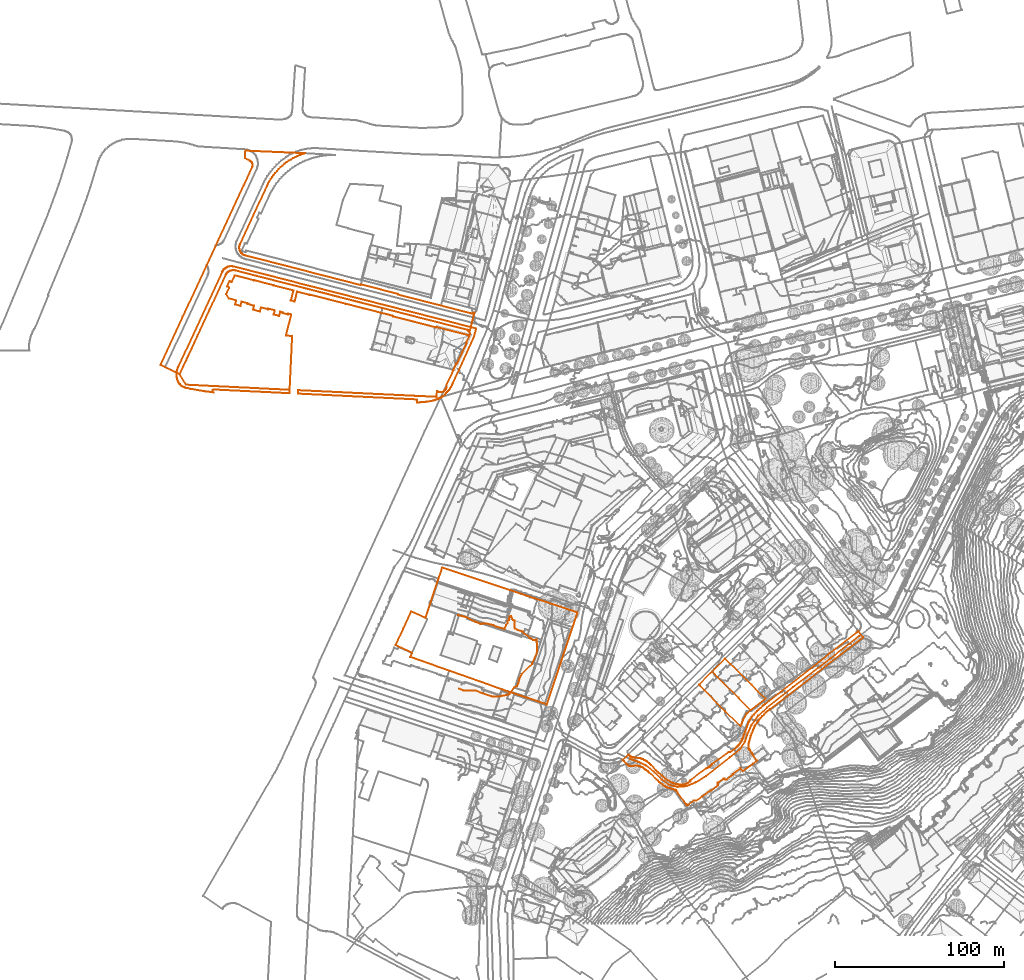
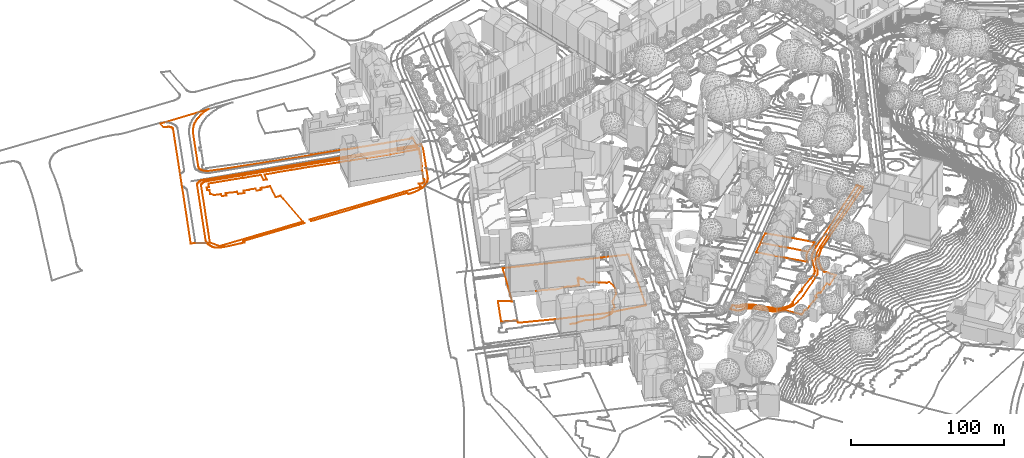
# Not in any storey, part 105 of 477: 5 geographic elements, 4 civil elements.
"""IFC4 model written with IfcOpenShell, lengths in metres."""

from ifc_helpers import new_model, entity, si_unit, frame, origin_with_axes, place, context, subcontext, project, spatial, element, save


model = new_model("IFC4")

# Units and contexts
model_context = context("Model", 3, precision=1e-05, world=origin_with_axes())
body_context = subcontext(model_context, "Body", "Model", "MODEL_VIEW")
ifc_project = project(units=[si_unit("AREAUNIT", "SQUARE_METRE"), si_unit("LENGTHUNIT", "METRE")], contexts=[model_context])

# Sites
site_1_placement = place(None, origin_with_axes())
site_1 = spatial("IfcSite", under=ifc_project, at=site_1_placement, Name="Topoexport Site")
site_2_placement = place(site_1_placement, origin_with_axes())
site_2 = spatial("IfcSite", under=site_1, at=site_2_placement, Name="TPX_ROADS")

# Civil element
civil_element_1_placement = place(site_2_placement, frame((100.2387320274, 96.0867402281, 531.113), z_axis=(0.0, 0.0, 1.0), x_axis=(1.0, 0.0, 0.0)))
element("IfcCivilElement", 1, at=civil_element_1_placement, inside=site_2, Name="Road 79", ObjectType="ROAD", context=body_context, shape_type="GeometricCurveSet", body=[
    entity("IfcGeometricCurveSet", [entity("IfcIndexedPolyCurve", entity("IfcCartesianPointList3D", [[0.0, 0.0, 0.0], [5.873999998, -1.9079999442, -0.327], [10.1329999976, -3.9629998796, -0.416], [15.125, -8.0759997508, -0.762], [19.2369999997, -12.1869996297, -0.742], [23.3489999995, -15.2709995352, -0.932], [28.7819999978, -16.5919994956, -1.02], [34.2149999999, -16.151999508, -1.14], [39.6479999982, -13.8019995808, -0.895], [45.6689999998, -10.1309996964, -0.771], [59.7670000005, 1.0289999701, -0.377], [65.9339999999, 6.0219998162, -0.226], [68.4299999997, 9.9869996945, 0.024], [70.1919999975, 14.9789995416, 0.289], [72.3939999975, 19.9719993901, 0.511], [76.3590000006, 25.4049992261, 0.835], [81.7929999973, 30.3979990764, 1.275], [97.0639999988, 42.4389987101, 1.964], [118.798, 59.1789981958, 3.142], [135.9779999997, 72.5419977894, 4.028]]))]),
])

# Site
site_3_placement = place(site_1_placement, origin_with_axes())
site_3 = spatial("IfcSite", under=site_1, at=site_3_placement, Name="TPX_ROADS_OUTLINES")

# Civil elements
civil_element_2_placement = place(site_3_placement, frame((-167.0582679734, 323.4217160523, 537.8425140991), z_axis=(0.0, 0.0, 1.0), x_axis=(1.0, 0.0, 0.0)))
element("IfcCivilElement", 2, at=civil_element_2_placement, inside=site_3, Name="Roads Outline 1", ObjectType="ROAD", context=body_context, shape_type="GeometricCurveSet", body=[
    entity("IfcGeometricCurveSet", [entity("IfcIndexedPolyCurve", entity("IfcCartesianPointList3D", [[0.0520000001, 0.794, 0.0778905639], [0.1720000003, 1.628, 0.1414368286], [0.3599999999, 2.449, 0.1229888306], [0.6140000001, 3.253, 0.1422283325], [0.932, 4.0330000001, 0.1900737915], [27.0049999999, 60.2550000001, 0.5400443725], [27.142, 60.5490000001, 0.5126433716], [27.298, 60.8330000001, 0.4861743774], [27.4399999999, 61.0580000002, 0.4652042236], [27.5929999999, 61.277, 0.4455913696], [27.9020000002, 61.659, 0.4208770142], [28.2420000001, 62.0140000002, 0.3979094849], [28.611, 62.3390000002, 0.3934667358], [29.0180000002, 62.6400000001, 0.429456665], [29.4509999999, 62.9040000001, 0.461022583], [29.997, 63.2100000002, 0.4976103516], [30.574, 63.4500000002, 0.5236322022], [31.176, 63.6220000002, 0.5419093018], [31.7930000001, 63.7220000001, 0.5525355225], [32.3420000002, 63.75, 0.5555108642], [32.892, 63.7220000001, 0.5525355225], [33.4360000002, 63.638, 0.5436094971], [33.9679999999, 63.4990000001, 0.5288390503], [173.8810000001, 27.709, 0.9821370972], [177.0249999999, 26.925, 1.0254997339], [175.7760000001, 22.1140000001, 0.8991806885], [163.142, -5.6869999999, -0.1214408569], [162.6850000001, -6.6339999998, -0.1428406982], [162.1780000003, -7.554, -0.1546447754], [161.6210000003, -8.4449999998, -0.1720094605], [161.0160000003, -9.3049999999, -0.1275359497], [160.5010000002, -9.966, -0.0865463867], [159.9580000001, -10.6039999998, -0.0871304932], [159.3880000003, -11.2169999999, -0.1146835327], [158.602, -11.98, -0.1548526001], [157.7740000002, -12.6979999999, -0.1822859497], [156.9070000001, -13.3669999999, -0.1912289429], [156.5890000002, -13.5939999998, -0.1937782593], [156.267, -13.814, -0.1988867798], [156.1440000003, -13.892, -0.2030286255], [155.9730000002, -13.9979999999, -0.2086572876], [155.4870000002, -14.277, -0.2234723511], [154.9909999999, -14.5379999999, -0.237331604], [154.2030000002, -14.8979999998, -0.2504185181], [153.3940000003, -15.2069999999, -0.254152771], [152.5660000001, -15.463, -0.257246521], [151.7230000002, -15.6639999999, -0.2596755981], [150.165, -15.9509999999, -0.2587494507], [148.5989999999, -16.1949999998, -0.256336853], [147.0270000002, -16.3959999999, -0.2543494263], [145.8960000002, -16.5149999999, -0.2531727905], [144.7630000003, -16.612, -0.2522136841], [143.5079999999, -16.703, -0.2513139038], [142.2510000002, -16.7689999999, -0.251307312], [142.2820000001, -15.4479999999, -0.2570652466], [141.8489999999, -14.9879999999, -0.2515061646], [73.4029999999, -11.6499999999, -0.1401603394], [71.7239999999, -11.5689999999, -0.1353944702], [71.8190000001, -9.5349999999, -0.1062963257], [87.8160000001, -10.2959999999, -0.0868485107], [100.3059999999, -10.9049999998, -0.0963261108], [112.7860000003, -11.504, -0.1315700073], [125.2710000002, -12.1029999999, -0.1595521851], [141.0989999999, -12.8599999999, -0.1855350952], [153.6890000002, -13.4589999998, -0.192262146], [153.858, -9.9309999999, -0.0865143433], [154.2450000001, -10.2119999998, -0.0867716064], [154.6669999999, -10.4369999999, -0.0869776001], [155.1159999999, -10.6009999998, -0.0871277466], [155.5830000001, -10.7019999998, -0.0872202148], [156.0150000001, -10.737, -0.0872522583], [156.4479999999, -10.7169999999, -0.0872339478], [156.875, -10.642, -0.0871652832], [157.2889999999, -10.5149999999, -0.0870490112], [157.6839999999, -10.3359999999, -0.0868851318], [158.0619999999, -10.1029999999, -0.086671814], [158.4070000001, -9.8219999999, -0.0864145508], [158.7120000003, -9.5, -0.1095284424], [158.9739999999, -9.1409999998, -0.1426807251], [159.1880000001, -8.7519999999, -0.1786033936], [159.3500000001, -8.338, -0.1696714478], [159.4569999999, -7.9069999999, -0.1602538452], [159.5070000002, -7.466, -0.1536618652], [159.5, -7.0219999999, -0.1487026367], [159.4360000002, -6.5819999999, -0.1415806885], [163.6490000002, 2.4480000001, 0.1229650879], [163.5380000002, 2.476, 0.1236298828], [165.2880000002, 6.1670000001, 0.2662664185], [165.5580000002, 6.037, 0.2617437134], [171.3859999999, 18.3890000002, 0.7349958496], [171.1260000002, 18.5090000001, 0.724586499], [173.1460000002, 22.78, 0.9627894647], [173.2889999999, 23.179, 0.9806465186], [173.3620000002, 23.5970000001, 0.9690089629], [173.3640000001, 24.0210000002, 0.9564182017], [173.2940000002, 24.439, 0.9469736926], [173.1550000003, 24.8400000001, 0.9459363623], [173.0070000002, 25.1680000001, 0.950545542], [172.8020000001, 25.4640000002, 0.9593605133], [172.548, 25.719, 0.9617019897], [172.2519999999, 25.9240000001, 0.9560527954], [171.9240000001, 26.0730000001, 0.9473505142], [171.5750000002, 26.1600000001, 0.9446512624], [121.6710000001, 38.9470000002, 0.865111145], [111.2400000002, 41.6160000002, 0.8527844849], [100.8300000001, 44.2860000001, 0.8056347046], [90.4190000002, 46.9550000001, 0.7582887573], [71.9980000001, 51.675, 0.6744817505], [57.9980000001, 55.2540000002, 0.6109493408], [46.8170000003, 58.1230000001, 0.5599923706], [34.7570000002, 61.213, 0.4507581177], [34.1910000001, 61.3250000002, 0.4424859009], [33.6159999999, 61.3700000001, 0.4395745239], [33.0389999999, 61.3490000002, 0.4409331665], [32.469, 61.2620000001, 0.4465618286], [31.912, 61.1090000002, 0.4604509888], [31.3769999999, 60.8930000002, 0.4805823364], [30.8710000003, 60.6160000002, 0.5063989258], [30.3999999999, 60.2820000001, 0.5375279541], [29.9709999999, 59.8960000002, 0.5442662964], [29.5890000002, 59.4640000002, 0.5487487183], [29.2600000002, 58.99, 0.5527342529], [28.9870000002, 58.4820000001, 0.5561759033], [19.5090000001, 38.017, 0.8076929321], [12.4110000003, 22.7340000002, 0.6745949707], [5.8100000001, 8.4810000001, 0.3444668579], [1.8530000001, -0.0619999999, 0.0037803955], [5.6140000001, -6.2829999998, -0.1343356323], [24.594, -7.2209999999, -0.150925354], [39.665, -7.96, -0.1614119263], [52.3650000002, -8.5989999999, -0.1753744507], [66.8250000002, -9.298, -0.128182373], [66.7290000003, -11.325, -0.1210380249], [62.2650000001, -11.1069999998, -0.1082113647], [21.7919999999, -9.1329999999, -0.1434194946], [21.3190000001, -9.5379999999, -0.1060192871], [21.3030000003, -10.2169999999, -0.0867761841], [21.8130000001, -10.8219999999, -0.0914425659], [21.2460000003, -10.754, -0.0874415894], [20.6800000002, -10.6839999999, -0.0872037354], [18.8590000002, -10.449, -0.0869885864], [17.0389999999, -10.199, -0.0867597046], [14.0279999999, -9.747, -0.0867189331], [11.023, -9.2519999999, -0.1324302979], [8.3420000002, -8.74, -0.1784553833], [5.6699999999, -8.1779999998, -0.166175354], [4.9820000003, -7.9749999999, -0.1617396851], [4.318, -7.706, -0.1563425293], [3.6830000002, -7.372, -0.1526119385], [3.0840000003, -6.9779999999, -0.1482111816], [2.5270000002, -6.5259999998, -0.1402237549], [2.017, -6.0219999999, -0.1280113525], [1.577, -5.4939999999, -0.1214290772], [1.1890000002, -4.9269999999, -0.1213944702], [0.8560000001, -4.3259999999, -0.0941727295], [0.5810000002, -3.696, -0.0555249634], [0.3659999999, -3.0429999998, -0.0337636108], [0.213, -2.3729999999, -0.0070060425], [0.0810000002, -1.588, 0.0250504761], [0.0100000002, -0.7959999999, 0.0446764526], [0.0, 0.0, 0.0], [0.0520000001, 0.794, 0.0778905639]]))]),
])
civil_element_3_placement = place(site_3_placement, frame((-165.2052679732, 323.3597160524, 537.8462944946), z_axis=(0.0, 0.0, 1.0), x_axis=(1.0, 0.0, 0.0)))
element("IfcCivilElement", 3, at=civil_element_3_placement, inside=site_3, Name="Roads Outline 2", ObjectType="ROAD", context=body_context, shape_type="GeometricCurveSet", body=[
    entity("IfcGeometricCurveSet", [entity("IfcIndexedPolyCurve", entity("IfcCartesianPointList3D", [[0.0, 0.0, 0.0], [3.9569999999, 8.5430000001, 0.3406864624], [10.5580000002, 22.7960000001, 0.6708145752], [17.656, 38.0789999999, 0.8039125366], [27.1340000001, 58.544, 0.5523955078], [27.4070000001, 59.0519999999, 0.5489538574], [27.736, 59.5260000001, 0.5449683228], [28.1179999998, 59.9580000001, 0.5404859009], [28.5469999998, 60.344, 0.5337475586], [29.0180000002, 60.6780000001, 0.5026185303], [29.5239999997, 60.9550000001, 0.4768019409], [30.0589999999, 61.1710000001, 0.4566705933], [30.6159999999, 61.324, 0.4427814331], [31.1859999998, 61.4110000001, 0.437152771], [31.7629999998, 61.432, 0.4357941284], [32.338, 61.3870000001, 0.4387055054], [32.9040000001, 61.2749999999, 0.4469777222], [44.9640000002, 58.1850000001, 0.5562119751], [56.145, 55.3160000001, 0.6071689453], [70.145, 51.737, 0.670701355], [88.5660000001, 47.017, 0.7545083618], [98.977, 44.348, 0.8018543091], [109.3870000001, 41.6780000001, 0.8490040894], [119.818, 39.0090000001, 0.8613307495], [169.7220000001, 26.2220000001, 0.9408708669], [170.071, 26.135, 0.9435701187], [170.3989999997, 25.986, 0.9522723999], [170.6949999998, 25.781, 0.9579215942], [170.949, 25.5260000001, 0.9555801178], [171.1540000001, 25.23, 0.9467651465], [171.3020000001, 24.902, 0.9421559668], [171.4410000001, 24.5009999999, 0.9431932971], [171.5109999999, 24.0830000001, 0.9526378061], [171.5090000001, 23.659, 0.9652285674], [171.4359999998, 23.2409999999, 0.9768661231], [171.2930000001, 22.8419999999, 0.9590090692], [152.0, 27.7679999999, 0.7652885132], [151.9249999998, 27.477, 0.7587523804], [126.1689999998, 34.1159999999, 0.9353180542], [126.2429999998, 34.4070000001, 0.9225731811], [119.111, 36.226, 0.7396747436], [108.673, 38.878, 0.8530632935], [98.2629999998, 41.547, 0.8512748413], [87.8470000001, 44.1980000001, 0.8045162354], [76.7080000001, 47.04, 0.7540998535], [76.6609999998, 46.8559999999, 0.7573679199], [69.3709999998, 48.703, 0.7245629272], [67.915, 43.004, 0.8257231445], [65.6859999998, 43.575, 0.8155814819], [67.196, 49.429, 0.7116682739], [55.554, 52.4310000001, 0.6584100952], [55.5690000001, 52.4890000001, 0.6573799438], [55.4330000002, 52.524, 0.6567583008], [44.2650000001, 55.425, 0.6052329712], [43.9550000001, 55.5050000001, 0.6038120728], [43.8479999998, 55.5330000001, 0.6033147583], [43.8279999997, 55.4550000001, 0.6047001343], [32.537, 58.3659999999, 0.5536014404], [30.7280000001, 54.3929999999, 0.623562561], [29.3799999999, 55.007, 0.6126571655], [27.9649999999, 51.899, 0.6678339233], [29.3119999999, 51.2849999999, 0.6787034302], [27.5159999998, 47.344, 0.7487004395], [29.1209999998, 44.7180000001, 0.7953052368], [33.4389999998, 43.605, 0.815048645], [32.807, 41.175, 0.8570673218], [35.9180000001, 40.3659999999, 0.8671896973], [36.5499999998, 42.7960000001, 0.8294174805], [40.3289999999, 41.8119999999, 0.8466813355], [40.2409999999, 41.469, 0.8526268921], [40.3659999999, 41.432, 0.8532682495], [40.6660000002, 41.352, 0.8546549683], [43.9500000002, 40.4650000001, 0.8659509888], [43.3199999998, 38.0449999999, 0.8019535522], [47.3939999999, 36.983, 0.7501932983], [48.0249999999, 39.402, 0.8792514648], [51.835, 38.4080000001, 0.8234014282], [52.2349999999, 38.3060000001, 0.8169916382], [52.3339999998, 38.6939999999, 0.8414509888], [56.2289999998, 37.7, 0.7820756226], [55.6099999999, 35.277, 0.8385680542], [58.7779999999, 34.4669999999, 0.9167797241], [59.3969999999, 36.8899999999, 0.7475084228], [61.0049999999, 36.4790000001, 0.7356430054], [60.906, 36.091, 0.753781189], [63.9479999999, 35.3130000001, 0.8350761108], [64.0639999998, 35.7649999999, 0.7878456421], [65.9410000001, 35.273, 0.8389542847], [62.7599999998, 22.8130000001, 0.6711040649], [66.469, 22.5430000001, 0.6665062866], [66.3190000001, 19.3600000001, 0.567588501], [64.9720000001, -9.236, -0.1319627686], [50.5120000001, -8.537, -0.1791548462], [37.8119999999, -7.898, -0.1651923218], [22.7409999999, -7.159, -0.1547057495], [3.7609999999, -6.2209999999, -0.1381160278], [0.0, 0.0, 0.0]]))]),
])
civil_element_4_placement = place(site_3_placement, frame((96.6207320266, 95.4677160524, 531.3511638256), z_axis=(0.0, 0.0, 1.0), x_axis=(1.0, 0.0, 0.0)))
element("IfcCivilElement", 4, at=civil_element_4_placement, inside=site_3, Name="Roads Outline 31", ObjectType="ROAD", context=body_context, shape_type="GeometricCurveSet", body=[
    entity("IfcGeometricCurveSet", [entity("IfcIndexedPolyCurve", entity("IfcCartesianPointList3D", [[0.0, 0.0, 0.0], [3.2930000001, 3.179, 0.0158061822], [3.9270000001, 2.5449999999, -0.0569556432], [4.341, 2.2609999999, -0.0816735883], [4.7660000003, 1.993, -0.1315604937], [5.04, 1.834, -0.164654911], [5.318, 1.6810000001, -0.1909944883], [5.608, 1.557, -0.2136066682], [5.7760000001, 1.5020000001, -0.2309464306], [5.9479999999, 1.4580000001, -0.2476230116], [6.3100000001, 1.3870000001, -0.2802835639], [6.6770000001, 1.348, -0.3148806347], [6.8999999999, 1.3260000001, -0.339520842], [7.1240000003, 1.3100000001, -0.3649891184], [9.1630000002, 1.148, -0.5103628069], [9.7039999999, 1.094, -0.5351432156], [10.2400000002, 1.0, -0.5315729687], [10.8850000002, 0.831, -0.5443188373], [11.5120000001, 0.6040000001, -0.5636517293], [12.1150000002, 0.324, -0.5659362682], [12.6910000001, -0.0079999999, -0.5875508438], [13.344, -0.3810000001, -0.6252667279], [13.9870000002, -0.7719999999, -0.6190830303], [14.7919999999, -1.344, -0.6405655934], [15.5589999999, -1.9680000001, -0.648665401], [16.1099999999, -2.4609999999, -0.6667955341], [16.639, -2.977, -0.6769479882], [18.0920000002, -4.426, -0.7455713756], [19.4879999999, -5.9299999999, -0.7901399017], [20.3790000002, -6.8300000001, -0.8030144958], [21.2910000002, -7.71, -0.8413836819], [22.219, -8.5649999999, -0.8702769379], [23.1669999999, -9.399, -0.8764018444], [24.051, -10.1810000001, -0.9075246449], [24.9720000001, -10.919, -0.9522966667], [25.9270000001, -11.612, -0.9829199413], [27.0860000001, -12.3629999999, -1.0168337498], [28.2860000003, -13.048, -1.0510406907], [29.0060000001, -13.392, -1.0801719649], [29.7409999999, -13.703, -1.1113975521], [30.4890000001, -13.9809999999, -1.135530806], [31.3810000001, -14.2390000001, -1.1792306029], [32.287, -14.4380000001, -1.1942427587], [33.2050000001, -14.5759999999, -1.2081873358], [34.2689999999, -14.675, -1.2073782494], [35.3370000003, -14.699, -1.1712599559], [35.9670000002, -14.6100000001, -1.1548979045], [36.588, -14.47, -1.147563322], [37.1950000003, -14.281, -1.1321978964], [37.7860000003, -14.044, -1.1153137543], [38.4110000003, -13.7309999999, -1.1053971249], [39.0060000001, -13.3640000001, -1.0971912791], [39.5670000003, -12.9469999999, -1.0887345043], [39.73, -12.8049999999, -1.0841322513], [39.8590000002, -12.632, -1.0757289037], [39.949, -12.436, -1.0694845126], [39.9920000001, -12.246, -1.0658453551], [39.9990000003, -12.0519999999, -1.0636627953], [39.969, -11.8600000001, -1.0624808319], [49.2820000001, -5.0079999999, -0.8290300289], [49.8050000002, -4.977, -0.8148877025], [50.4380000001, -4.6880000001, -0.793606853], [51.0360000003, -4.331, -0.7769803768], [51.5900000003, -3.9099999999, -0.7550214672], [52.0789999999, -3.446, -0.748179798], [52.517, -2.9339999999, -0.7399364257], [52.8990000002, -2.379, -0.7304586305], [62.5130000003, 4.564, -0.4979582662], [63.4550000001, 4.561, -0.4534208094], [67.0500000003, 7.1850000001, -0.2970001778], [67.6669999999, 7.7450000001, -0.2563687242], [68.2450000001, 8.345, -0.2048557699], [68.7820000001, 8.983, -0.1681399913], [69.2650000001, 9.645, -0.1403664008], [69.7030000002, 10.3370000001, -0.1178567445], [70.0950000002, 11.0560000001, -0.0483443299], [70.3810000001, 11.6640000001, -0.0099176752], [70.6329999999, 12.2860000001, -0.0082693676], [70.801, 12.71, 0.0299553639], [70.9620000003, 13.1359999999, 0.0622557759], [73.75, 20.6159999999, 0.4204763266], [74.088, 21.601, 0.4544270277], [74.4930000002, 22.5600000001, 0.533122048], [74.9640000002, 23.4879999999, 0.591528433], [75.4980000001, 24.382, 0.627089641], [76.1090000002, 25.2579999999, 0.6667514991], [76.7820000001, 26.088, 0.7111169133], [77.5109999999, 26.8689999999, 0.7673133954], [78.4270000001, 27.8640000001, 0.8253613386], [79.3799999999, 28.825, 0.8766474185], [80.3680000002, 29.7490000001, 0.9326248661], [81.4270000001, 30.7390000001, 0.9778234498], [82.5070000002, 31.706, 0.9497418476], [83.3170000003, 32.368, 1.0122494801], [84.1469999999, 33.0060000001, 1.0813364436], [122.0490000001, 62.7239999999, 3.2017164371], [138.233, 75.199, 4.1804072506], [139.2660000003, 76.04, 4.1295459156], [142.0729999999, 72.4369999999, 4.0428595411], [142.1070000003, 72.3929999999, 4.0430508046], [86.9390000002, 29.956, 1.2352717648], [86.7320000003, 29.797, 1.2148501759], [85.5920000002, 28.8400000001, 1.1947934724], [84.4870000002, 27.841, 1.1339055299], [83.4280000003, 26.814, 0.8697069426], [82.409, 25.747, 0.8219906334], [81.432, 24.6410000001, 0.7399673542], [80.648, 23.7450000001, 0.6977840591], [79.9110000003, 22.8100000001, 0.6717600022], [79.2209999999, 21.8389999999, 0.6201259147], [78.5819999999, 20.834, 0.5139970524], [78.0330000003, 19.8640000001, 0.4536036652], [77.5320000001, 18.868, 0.3751792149], [77.0789999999, 17.8500000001, 0.3506013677], [76.676, 16.811, 0.3187545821], [76.142, 15.4069999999, 0.2706407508], [75.6490000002, 13.9879999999, 0.2033171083], [75.2409999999, 12.7039999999, 0.1325761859], [74.8659999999, 11.409, 0.0792884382], [74.6460000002, 10.5179999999, 0.0196140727], [74.4500000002, 9.622, -0.0040469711], [74.3740000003, 9.0249999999, -0.004695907], [74.3390000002, 8.4240000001, -0.0067944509], [74.3310000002, 7.892, -0.02139242], [74.3810000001, 7.3629999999, -0.042645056], [74.415, 7.0560000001, -0.0639365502], [74.4900000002, 6.7560000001, -0.0959011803], [74.6040000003, 6.4680000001, -0.1293537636], [74.6890000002, 6.2409999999, -0.1538042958], [74.8229999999, 6.04, -0.1545982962], [75.0010000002, 5.8759999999, -0.1530405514], [75.125, 5.7990000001, -0.1531824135], [75.2579999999, 5.7390000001, -0.1538845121], [76.3900000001, 3.9990000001, -0.149455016], [76.1630000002, 3.8160000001, -0.1884783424], [76.96, 2.719, -0.1878580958], [79.3510000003, -0.557, -0.2921348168], [76.9590000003, -2.3030000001, -0.3393293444], [70.932, -6.706, -0.9336899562], [69.6710000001, -4.9779999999, -0.4540167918], [65.0389999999, -8.3589999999, -0.9436426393], [65.2409999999, -8.6359999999, -1.0177780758], [61.2230000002, -11.571, -1.0599296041], [61.1920000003, -11.5290000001, -1.0495729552], [60.9620000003, -11.598, -1.0425273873], [60.7209999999, -11.594, -1.0211534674], [60.4920000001, -11.52, -0.9879663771], [60.2960000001, -11.382, -0.9458653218], [60.2560000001, -11.4110000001, -0.9477569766], [60.074, -11.162, -0.886503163], [59.8330000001, -11.3389999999, -0.8983162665], [59.6370000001, -11.071, -0.8323868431], [59.54, -11.142, -0.8370969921], [59.5049999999, -11.094, -0.8252990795], [56.145, -13.548, -0.8605123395], [56.1800000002, -13.5959999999, -0.8720271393], [56.0840000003, -13.666, -0.8710225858], [56.2800000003, -13.9339999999, -0.9353167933], [56.0279999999, -14.115, -0.9319131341], [56.2110000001, -14.3659999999, -0.992023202], [56.1710000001, -14.395, -0.9915042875], [56.2430000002, -14.625, -1.0349702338], [56.2430000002, -14.8670000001, -1.0713829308], [56.173, -15.098, -1.0974092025], [56.0380000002, -15.297, -1.1106918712], [56.0670000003, -15.3370000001, -1.1202422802], [52.0470000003, -18.2749999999, -1.1863325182], [51.8470000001, -18.0009999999, -1.1087987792], [47.2239999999, -21.3759999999, -0.9358706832], [43.3680000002, -24.192, -1.036458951], [43.165, -24.0719999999, -1.0279008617], [42.9450000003, -23.987, -1.013885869], [42.673, -23.9339999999, -0.9943506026], [42.3960000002, -23.9339999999, -1.0060903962], [42.1230000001, -23.987, -1.042375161], [41.8659999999, -24.0900000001, -1.078830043], [38.7749999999, -26.4169999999, -1.6610765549], [38.574, -26.524, -1.5469449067], [38.3530000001, -26.5830000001, -1.4907231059], [38.125, -26.5900000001, -1.4283874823], [37.9010000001, -26.544, -1.3598199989], [37.7000000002, -26.453, -1.2951375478], [37.5240000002, -26.3200000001, -1.2455517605], [37.3810000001, -26.152, -1.2301741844], [36.3200000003, -24.699, -1.177052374], [32.4220000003, -19.3859999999, -1.1804190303], [31.7590000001, -18.371, -1.1461752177], [31.5780000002, -18.1329999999, -1.1384723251], [31.3650000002, -17.923, -1.1469649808], [31.1850000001, -17.7849999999, -1.1472619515], [30.9909999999, -17.669, -1.1502887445], [30.801, -17.581, -1.1521615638], [30.6040000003, -17.5109999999, -1.1535257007], [29.5490000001, -17.3019999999, -1.2795969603], [28.5060000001, -17.0360000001, -1.253468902], [27.54, -16.7339999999, -1.2903784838], [26.591, -16.3840000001, -1.2486742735], [25.6600000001, -15.986, -1.2235573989], [24.8999999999, -15.568, -1.1668048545], [24.1680000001, -15.1000000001, -1.14570038], [23.469, -14.5859999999, -1.1166573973], [22.4849999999, -13.8219999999, -1.0802254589], [21.548, -13.0020000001, -1.0797485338], [20.7820000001, -12.3359999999, -1.052997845], [20.0270000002, -11.6580000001, -1.0260798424], [15.5419999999, -7.5079999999, -0.8775449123], [15.04, -7.058, -0.845397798], [14.5300000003, -6.6189999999, -0.8350795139], [13.9199999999, -6.1170000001, -0.794149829], [13.298, -5.6299999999, -0.7860997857], [12.6570000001, -5.1510000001, -0.7644378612], [12.0049999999, -4.6869999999, -0.752936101], [11.503, -4.398, -0.7481102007], [10.9849999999, -4.138, -0.7511080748], [10.4670000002, -3.925, -0.7552954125], [9.9360000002, -3.746, -0.7441986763], [9.3939999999, -3.6040000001, -0.7195945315], [8.7080000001, -3.49, -0.661742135], [8.0150000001, -3.442, -0.6460953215], [7.4590000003, -3.456, -0.637127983], [6.9050000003, -3.5149999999, -0.6132292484], [5.6150000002, -3.662, -0.5250385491], [5.327, -3.723, -0.5179361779], [5.034, -3.7439999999, -0.5130717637], [4.7409999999, -3.7239999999, -0.5052989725], [4.4539999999, -3.665, -0.4986343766], [4.2390000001, -3.6329999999, -0.5020115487], [4.0279999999, -3.5800000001, -0.5045682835], [3.7450000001, -3.473, -0.5078943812], [3.48, -3.3289999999, -0.5077427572], [3.236, -3.1499999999, -0.4927837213], [2.7460000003, -2.7009999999, -0.4305018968], [2.102, -2.1070000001, -0.357239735], [0.656, -0.6140000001, -0.086058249], [0.0780000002, -0.034, -0.0051900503], [0.0, 0.0, 0.0]]))]),
])

# Site
site_4_placement = place(site_1_placement, origin_with_axes())
site_4 = spatial("IfcSite", under=site_1, at=site_4_placement, Name="TPX_CADASTRES")

# Geographic elements
geographic_element_1_placement = place(site_4_placement, frame((-37.6202679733, 163.1717160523, 527.4284658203), z_axis=(0.0, 0.0, 1.0), x_axis=(1.0, 0.0, 0.0)))
element("IfcGeographicElement", 5, at=geographic_element_1_placement, inside=site_4, Name="Cadastre 84", PredefinedType="NOTDEFINED", context=body_context, shape_type="GeometricCurveSet", body=[
    entity("IfcGeometricCurveSet", [entity("IfcIndexedPolyCurve", entity("IfcCartesianPointList3D", [[0.0, 0.0, 0.0], [4.5610000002, 10.0020000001, 0.302003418], [9.122, 20.0040000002, 1.0836679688], [17.602, 16.125, 0.1462164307], [24.6439999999, 37.25, 5.1006675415], [25.335, 39.3360000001, 5.0652272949], [27.5120000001, 45.9010000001, 5.1338758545], [107.432, 19.3030000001, 4.1751047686], [89.3160000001, -34.899, 2.8501696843], [67.9750000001, -27.862, 0.7380044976], [62.7239999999, -26.0029999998, 0.1976872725], [31.662, -15.027, -0.2038979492], [10.9010000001, -7.699, 0.0999814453], [8.71, -6.9199999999, 0.0979825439], [9.7310000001, -4.439, 0.0814150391], [0.0, 0.0, 0.0]]))]),
])
geographic_element_2_placement = place(site_4_placement, frame((149.4177320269, 147.7507160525, 533.9796271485), z_axis=(0.0, 0.0, 1.0), x_axis=(1.0, 0.0, 0.0)))
element("IfcGeographicElement", 6, at=geographic_element_2_placement, inside=site_4, Name="Cadastre 95", PredefinedType="NOTDEFINED", context=body_context, shape_type="GeometricCurveSet", body=[
    entity("IfcGeometricCurveSet", [entity("IfcIndexedPolyCurve", entity("IfcCartesianPointList3D", [[0.0, 0.0, 0.0], [7.7799999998, 7.702, 0.2987870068], [11.0119999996, 4.4579999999, 0.3734243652], [23.2859999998, -7.858, -0.0751989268], [31.4739999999, -16.148, -0.720618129], [22.7249999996, -22.8910000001, -1.0087543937], [15.497, -15.601, -0.475335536], [3.2339999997, -3.2560000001, 0.0729254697], [0.0, 0.0, 0.0]]))]),
])
geographic_element_3_placement = place(site_4_placement, frame((141.6377320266, 140.0377160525, 533.7576011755), z_axis=(0.0, 0.0, 1.0), x_axis=(1.0, 0.0, 0.0)))
element("IfcGeographicElement", 7, at=geographic_element_3_placement, inside=site_4, Name="Cadastre 98", PredefinedType="NOTDEFINED", context=body_context, shape_type="GeometricCurveSet", body=[
    entity("IfcGeometricCurveSet", [entity("IfcIndexedPolyCurve", entity("IfcCartesianPointList3D", [[0.0, 0.0, 0.0], [7.7800000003, 7.713, 0.222025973], [11.014, 4.4569999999, 0.2949514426], [23.2770000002, -7.888, -0.2533095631], [30.5049999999, -15.1780000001, -0.7867284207], [28.1950000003, -17.318, -1.1139715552], [25.9950000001, -20.9890000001, -0.9924710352], [24.5550000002, -24.73, -1.0382610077], [15.4870000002, -15.6100000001, -0.6674854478], [3.247, -3.2720000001, 0.1127232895], [0.7039999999, -0.71, 0.1497301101], [0.0, 0.0, 0.0]]))]),
])
geographic_element_4_placement = place(site_4_placement, frame((-176.5862679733, 328.7697160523, 538.0802874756), z_axis=(0.0, 0.0, 1.0), x_axis=(1.0, 0.0, 0.0)))
element("IfcGeographicElement", 8, at=geographic_element_4_placement, inside=site_4, Name="Cadastre 109", PredefinedType="NOTDEFINED", context=body_context, shape_type="GeometricCurveSet", body=[
    entity("IfcGeometricCurveSet", [entity("IfcIndexedPolyCurve", entity("IfcCartesianPointList3D", [[0.0, 0.0, 0.0], [13.2170000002, 28.527, 0.7045152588], [34.3429999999, 74.108, 1.2457991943], [49.2089999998, 106.1850000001, 1.375401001], [54.1779999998, 116.8970000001, 1.375401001], [54.341, 117.338, 1.375401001], [54.4330000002, 117.7990000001, 1.375401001], [54.452, 118.2690000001, 1.375401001], [54.398, 118.736, 1.375401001], [54.2710000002, 119.189, 1.375401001], [54.0750000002, 119.6170000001, 1.375401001], [53.8140000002, 120.0080000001, 1.375401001], [53.4959999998, 120.355, 1.375401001], [53.128, 120.6470000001, 1.375401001], [52.7179999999, 120.878, 1.375401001], [49.9180000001, 122.1780000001, 1.375401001], [50.1869999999, 126.669, 1.375401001], [85.5270000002, 125.1430000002, 1.375401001], [84.0619999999, 124.6900000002, 1.375401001], [82.6170000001, 124.175, 1.375401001], [81.196, 123.5970000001, 1.375401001], [79.801, 122.9600000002, 1.375401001], [78.4350000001, 122.263, 1.375401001], [77.1000000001, 121.5080000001, 1.375401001], [75.7990000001, 120.6970000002, 1.375401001], [74.5329999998, 119.8300000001, 1.375401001], [73.3059999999, 118.9100000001, 1.375401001], [72.1200000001, 117.9380000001, 1.375401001], [70.9759999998, 116.9160000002, 1.375401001], [69.878, 115.8460000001, 1.375401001], [68.8259999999, 114.73, 1.375401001], [67.8229999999, 113.5700000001, 1.375401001], [66.8709999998, 112.368, 1.375401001], [65.9709999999, 111.1260000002, 1.375401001], [65.1260000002, 109.8460000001, 1.375401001], [64.3360000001, 108.5320000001, 1.375401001], [63.6030000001, 107.1840000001, 1.375401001], [62.929, 105.807, 1.375401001], [47.0630000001, 71.5480000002, 1.2092193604], [46.835, 70.9640000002, 1.2006646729], [46.6830000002, 70.3560000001, 1.2050308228], [46.6069999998, 69.7340000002, 1.2173764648], [46.6099999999, 69.1070000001, 1.2471497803], [46.6919999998, 68.4850000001, 1.2696016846], [46.8509999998, 67.8790000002, 1.286520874], [47.0839999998, 67.297, 1.2635733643], [47.3930000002, 66.7560000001, 1.2368438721], [47.7659999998, 66.2580000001, 1.1986671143], [48.199, 65.8100000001, 1.1606853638], [48.6839999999, 65.419, 1.115079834], [49.213, 65.0920000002, 1.076939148], [49.7799999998, 64.8330000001, 1.0467215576], [50.3739999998, 64.6470000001, 1.0250041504], [59.6839999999, 62.2680000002, 0.6968875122], [118.3769999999, 47.2200000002, 0.4208826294], [118.477, 47.6100000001, 0.4139557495], [140.548, 41.9510000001, 0.5144055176], [140.4479999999, 41.561, 0.5213323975], [165.7889999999, 35.0620000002, 0.6318704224], [183.3110000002, 30.574, 0.8355214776], [183.7689999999, 30.4920000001, 0.8561127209], [184.2340000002, 30.4810000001, 0.8952923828], [184.6949999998, 30.5430000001, 0.9358133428], [185.1409999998, 30.675, 0.9607049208], [185.5610000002, 30.8740000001, 0.9820399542], [182.6830000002, 19.4920000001, 0.7081629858], [182.4670000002, 19.8560000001, 0.7159602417], [182.1919999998, 20.179, 0.7253186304], [181.8670000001, 20.4510000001, 0.723605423], [181.5, 20.6640000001, 0.7119359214], [181.1030000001, 20.8120000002, 0.7068778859], [131.199, 33.5990000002, 0.6273377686], [120.7680000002, 36.2680000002, 0.6150111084], [81.5260000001, 46.327, 0.436708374], [67.5260000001, 49.9060000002, 0.3731759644], [56.3450000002, 52.7750000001, 0.3222189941], [44.2850000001, 55.865, 0.2129847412], [43.719, 55.9770000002, 0.2047125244], [43.1439999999, 56.0220000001, 0.2018011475], [42.5669999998, 56.0010000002, 0.20315979], [41.997, 55.9140000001, 0.2087884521], [41.4399999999, 55.7610000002, 0.2226776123], [40.9049999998, 55.5450000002, 0.24280896], [40.3990000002, 55.2680000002, 0.2686255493], [39.9279999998, 54.9340000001, 0.2997545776], [39.4989999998, 54.5480000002, 0.3064929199], [39.1170000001, 54.1160000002, 0.3109753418], [38.7880000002, 53.642, 0.3149608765], [38.5150000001, 53.1340000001, 0.3184025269], [29.037, 32.669, 0.5699195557], [21.9390000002, 17.3860000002, 0.4368215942], [11.3810000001, -5.4099999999, -0.233992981], [0.0, 0.0, 0.0]]))]),
])

# Site
site_5_placement = place(site_1_placement, origin_with_axes())
site_5 = spatial("IfcSite", under=site_1, at=site_5_placement, Name="TPX_CONTOUR_LINES")

# Geographic element
geographic_element_5_placement = place(site_5_placement, frame((-0.8222679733, 137.6393507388, 528.0), z_axis=(0.0, 0.0, 1.0), x_axis=(1.0, 0.0, 0.0)))
element("IfcGeographicElement", 9, at=geographic_element_5_placement, inside=site_5, Name="Contour Line 528.0 m", PredefinedType="NOTDEFINED", context=body_context, shape_type="GeometricCurveSet", body=[
    entity("IfcGeometricCurveSet", [entity("IfcIndexedPolyCurve", entity("IfcCartesianPointList3D", [[0.0, 0.0, 0.0], [3.5, -1.1778545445, 0.0], [10.5, -1.2392657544, 0.0], [13.5, -2.554476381, 0.0], [20.5, -4.812951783, 0.0], [23.5, -4.7901563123, 0.0], [29.5, -3.7234549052, 0.0], [30.5, -3.2433723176, 0.0], [33.0963409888, 0.5313653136, 0.0], [35.0174578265, 1.5313653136, 0.0], [35.8527635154, 3.5313653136, 0.0], [36.5, 6.2252200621, 0.0], [37.6599386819, 8.5313653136, 0.0], [43.7241076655, 14.5313653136, 0.0], [46.5382273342, 20.5313653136, 0.0], [46.9512968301, 23.5313653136, 0.0], [46.5, 28.7699572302, 0.0], [44.4307411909, 28.5313653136, 0.0], [43.436324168, 29.5313653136, 0.0], [42.5, 29.8868598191, 0.0], [39.1569602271, 32.5313653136, 0.0], [38.5, 33.6261469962, 0.0], [35.1437246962, 34.5313653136, 0.0], [33.6707841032, 35.5313653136, 0.0], [33.5, 40.1717594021, 0.0], [32.5, 40.4448404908, 0.0], [31.5, 42.815747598, 0.0], [30.5, 42.3879863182, 0.0], [30.2408814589, 40.5313653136, 0.0], [29.5, 39.8948384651, 0.0], [29.2456833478, 38.5313653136, 0.0], [28.5, 37.4929037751, 0.0], [27.5, 35.1765439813, 0.0], [22.5, 36.4919594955, 0.0], [21.5, 37.2195102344, 0.0], [20.5, 37.5289547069, 0.0], [16.5, 38.4306722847, 0.0], [13.5, 38.1631499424, 0.0], [10.5, 39.287652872, 0.0], [4.5, 42.2560761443, 0.0], [0.0, 43.2735922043, 0.0]]))]),
])

save(model, "model.ifc")
